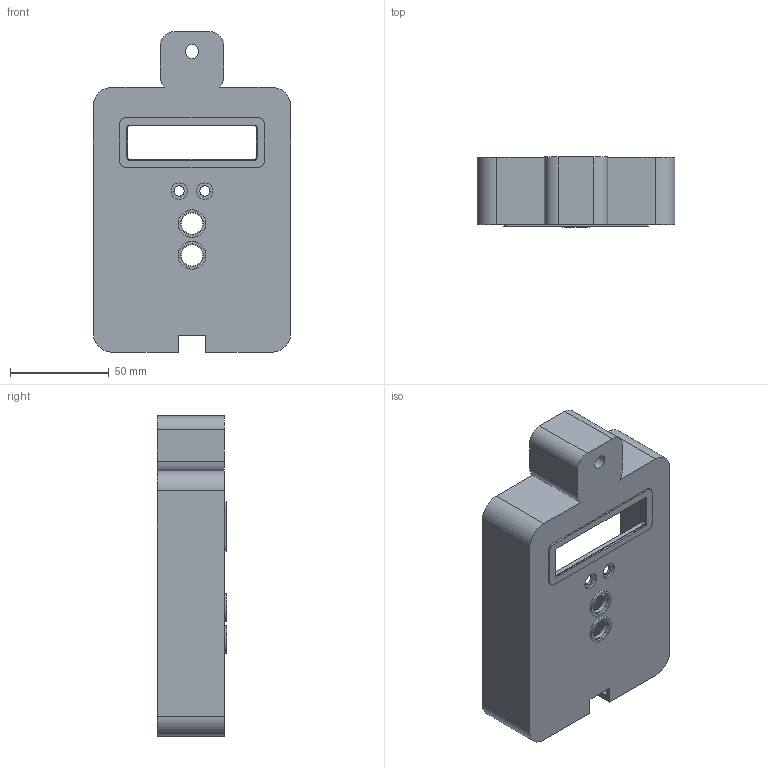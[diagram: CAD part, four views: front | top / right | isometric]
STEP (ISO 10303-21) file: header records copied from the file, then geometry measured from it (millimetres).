
FILE_DESCRIPTION(('Open CASCADE Model'),'2;1');
FILE_NAME('AETHER KEYNODE V1 housing','2026-10-12T13:28:42',('Author'),( 'Open CASCADE'),'Open CASCADE STEP processor 7.9','build123d', 'Unknown');
FILE_SCHEMA(('AUTOMOTIVE_DESIGN { 1 0 10303 214 1 1 1 1 }'));
Length unit declared in the file: millimetre
Products named in the file (1): AETHER KEYNODE V1 housing
Bounding box: 100 x 35.2 x 162 mm (x, y, z)
Volume: 103155.2 mm3; surface area: 65212.7 mm2
Topology: 1 solids, 1 shells, 157 faces, 419 edges, 278 vertices
Faces by surface type: plane 108, cylinder 49
Full cylindrical faces by diameter (mm): 2.1 x4, 5.2 x2, 7 x1, 8.2 x2, 10.8 x2, 11.6 x2, 12.4 x2, 14 x2
Entity records: 10380 total; most frequent: CARTESIAN_POINT 2089, DIRECTION 1492, LINE 887, VECTOR 887, ORIENTED_EDGE 838, PCURVE 838, DEFINITIONAL_REPRESENTATION 838, EDGE_CURVE 419
